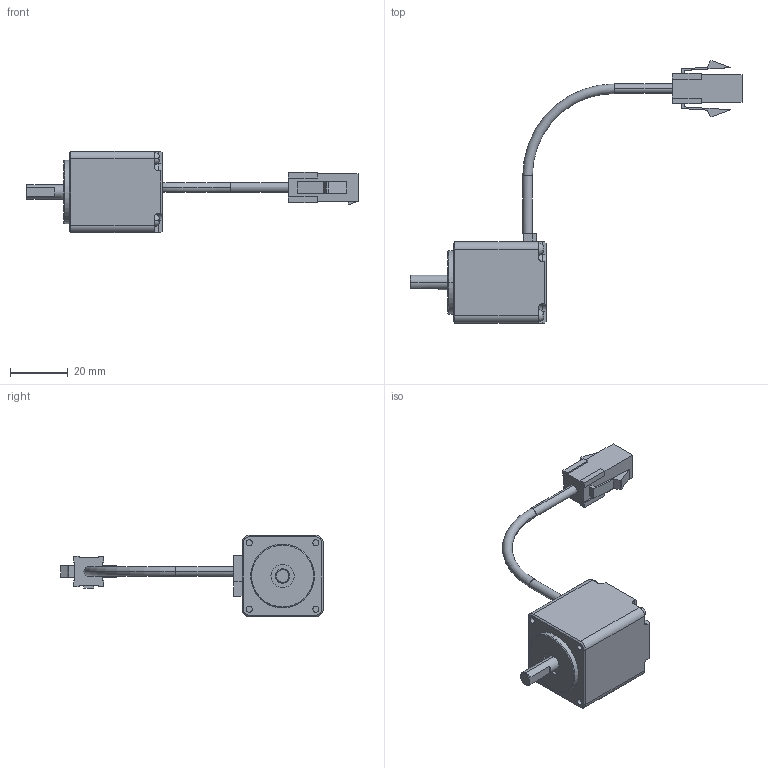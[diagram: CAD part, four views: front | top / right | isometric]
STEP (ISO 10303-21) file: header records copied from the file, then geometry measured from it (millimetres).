
FILE_DESCRIPTION (( 'STEP AP203' ), '1' );
FILE_NAME ('P21-MO-028-01-R01.STEP', '2015-06-30T01:34:57', ( '' ), ( '' ), 'SwSTEP 2.0', 'SolidWorks 2013', '' );
FILE_SCHEMA (( 'CONFIG_CONTROL_DESIGN' ));
Length unit declared in the file: millimetre
Products named in the file (3): M21-MO-028-01-R02; Power_Cable_ル遽; P21-MO-028-01-R01
Assembly tree (2 placements, depth 2):
  P21-MO-028-01-R01
    M21-MO-028-01-R02
    Power_Cable_ル遽
Bounding box: 114.58 x 90.51 x 28 mm (x, y, z)
Volume: 28191.8 mm3; surface area: 9119.6 mm2
Topology: 2 solids, 2 shells, 254 faces, 671 edges, 436 vertices
Faces by surface type: plane 173, cylinder 58, cone 9, sphere 8, torus 6
Entity records: 8171 total; most frequent: CARTESIAN_POINT 1513, DIRECTION 1348, ORIENTED_EDGE 1314, EDGE_CURVE 657, AXIS2_PLACEMENT_3D 452, VECTOR 444, LINE 444, VERTEX_POINT 429
